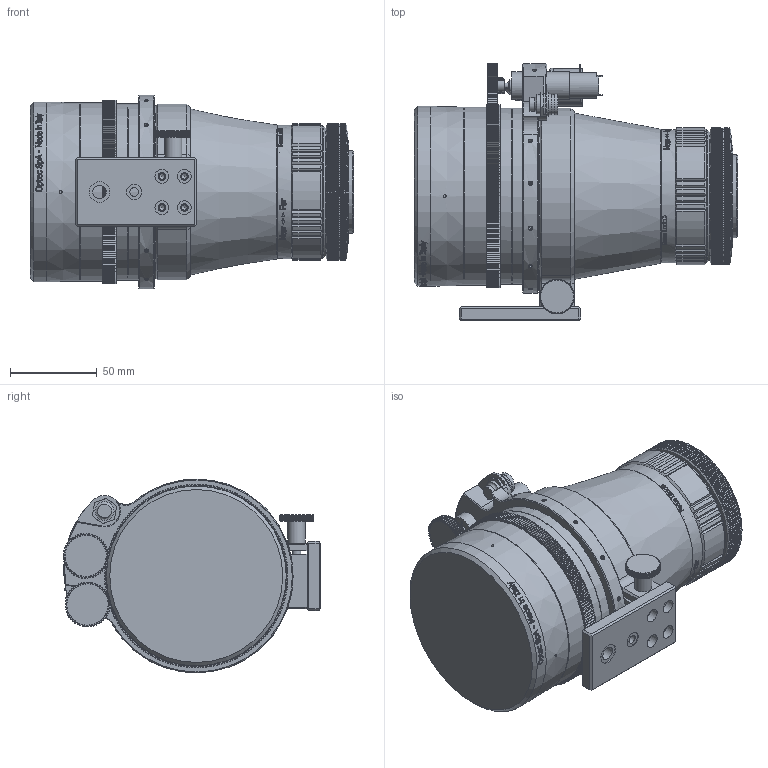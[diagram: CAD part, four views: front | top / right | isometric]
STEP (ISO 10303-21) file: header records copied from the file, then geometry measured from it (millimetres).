
FILE_DESCRIPTION((''),'2;1');
FILE_NAME('C:\Users\dblandino\Desktop\C1116_071_001.stp','2014-04-28T12:45:30',('dblandino'),(''),'Autodesk Inventor 2010','Autodesk Inventor 2010','');
FILE_SCHEMA(('AUTOMOTIVE_DESIGN { 1 0 10303 214 1 1 1 1 }'));
Length unit declared in the file: millimetre
Products named in the file (2): C1116_071_001.iam (Livello di dettaglio sostituto3); C1116_071_001_SUB
Assembly tree (1 placements, depth 2):
  C1116_071_001.iam (Livello di dettaglio sostituto3)
    C1116_071_001_SUB
Bounding box: 186.78 x 148.95 x 112.01 mm (x, y, z)
Volume: 1428185.6 mm3; surface area: 145752.3 mm2
Topology: 22 solids, 22 shells, 4246 faces, 11787 edges, 7788 vertices
Faces by surface type: cylinder 1784, plane 1542, bspline 661, cone 226, torus 32, sphere 1
Full cylindrical faces by diameter (mm): 1 x10, 1.5 x1, 3 x4, 3.5 x1, 3.8 x6, 4.978 x1, 5 x1, 6 x1, 6.32 x1, 7 x3, 7.798 x1, 8 x2, 8.23 x1, 8.5 x1, 9.38 x1, 10 x2, 10.25 x1, 10.26 x1, 11 x1, 11.1 x1, 11.5 x1, 11.9 x2, 13 x2, 14 x1, 14.31 x1, 15 x2, 16 x3, 22.2 x1, 48 x1, 61.5 x1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
Entity records: 286501 total; most frequent: CARTESIAN_POINT 180585, ORIENTED_EDGE 22872, DIRECTION 19747, EDGE_CURVE 11436, AXIS2_PLACEMENT_3D 7748, VERTEX_POINT 7653, EDGE_LOOP 4733, VECTOR 4251
